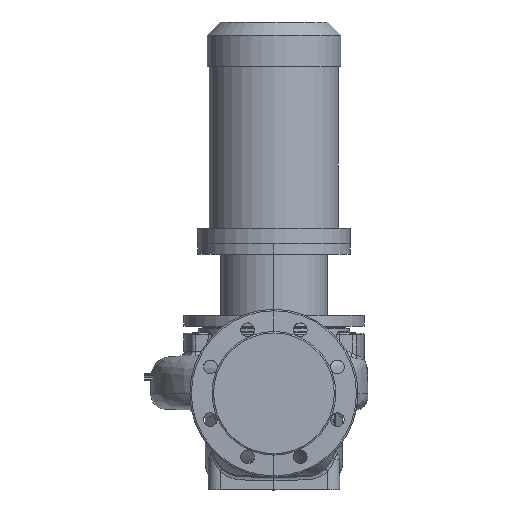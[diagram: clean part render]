
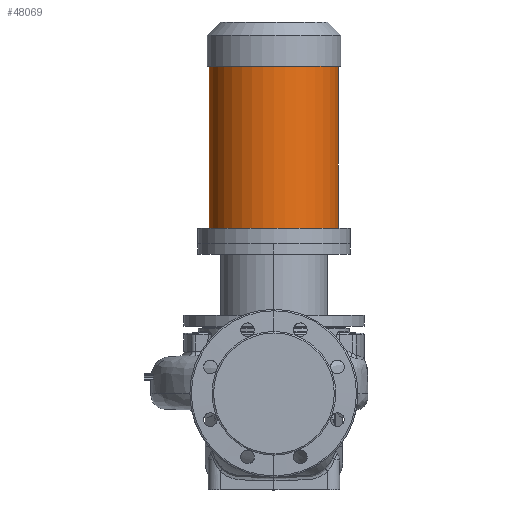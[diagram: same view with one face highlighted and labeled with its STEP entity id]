
A CAD part, top view. The second image highlights one B-rep face of the part: STEP entity #48069.
In plain terms, the highlighted cylindrical face has radius 84.5 mm (diameter 169 mm), a partial arc.
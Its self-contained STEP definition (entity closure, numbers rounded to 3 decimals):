
#1621 = CARTESIAN_POINT ( 'NONE',  ( 84.5, 216.3, 0. ) ) ;
#2119 = FACE_OUTER_BOUND ( 'NONE', #19208, .T. ) ;
#5796 = CARTESIAN_POINT ( 'NONE',  ( 0., 196.3, 0. ) ) ;
#5826 = EDGE_CURVE ( 'NONE', #29165, #52747, #6450, .T. ) ;
#6118 = DIRECTION ( 'NONE',  ( -1., 0., 0. ) ) ;
#6450 = CIRCLE ( 'NONE', #10351, 84.5 ) ;
#7078 = DIRECTION ( 'NONE',  ( -1., 0., 0. ) ) ;
#7851 = DIRECTION ( 'NONE',  ( 0., -1., 0. ) ) ;
#7947 = VERTEX_POINT ( 'NONE', #35226 ) ;
#8259 = EDGE_CURVE ( 'NONE', #7947, #52747, #50573, .T. ) ;
#10278 = AXIS2_PLACEMENT_3D ( 'NONE', #32903, #10390, #6118 ) ;
#10351 = AXIS2_PLACEMENT_3D ( 'NONE', #20650, #7851, #7078 ) ;
#10390 = DIRECTION ( 'NONE',  ( 0., -1., 0. ) ) ;
#12752 = ORIENTED_EDGE ( 'NONE', *, *, #5826, .F. ) ;
#13183 = CYLINDRICAL_SURFACE ( 'NONE', #32699, 84.5 ) ;
#15974 = DIRECTION ( 'NONE',  ( 0., -1., 0. ) ) ;
#16192 = LINE ( 'NONE', #24227, #44644 ) ;
#19208 = EDGE_LOOP ( 'NONE', ( #46994, #47472, #30783, #12752 ) ) ;
#20650 = CARTESIAN_POINT ( 'NONE',  ( 0., 216.3, 0. ) ) ;
#23653 = EDGE_CURVE ( 'NONE', #25208, #29165, #16192, .T. ) ;
#24227 = CARTESIAN_POINT ( 'NONE',  ( 84.5, 196.3, 0. ) ) ;
#25208 = VERTEX_POINT ( 'NONE', #40629 ) ;
#29165 = VERTEX_POINT ( 'NONE', #1621 ) ;
#29770 = VECTOR ( 'NONE', #15974, 1000. ) ;
#30783 = ORIENTED_EDGE ( 'NONE', *, *, #8259, .T. ) ;
#32699 = AXIS2_PLACEMENT_3D ( 'NONE', #5796, #49826, #37818 ) ;
#32903 = CARTESIAN_POINT ( 'NONE',  ( 0., 428.3, 0. ) ) ;
#33450 = CARTESIAN_POINT ( 'NONE',  ( -84.5, 196.3, 0. ) ) ;
#35226 = CARTESIAN_POINT ( 'NONE',  ( -84.5, 428.3, 0. ) ) ;
#37818 = DIRECTION ( 'NONE',  ( -1., 0., 0. ) ) ;
#40629 = CARTESIAN_POINT ( 'NONE',  ( 84.5, 428.3, 0. ) ) ;
#44644 = VECTOR ( 'NONE', #55265, 1000. ) ;
#46923 = CIRCLE ( 'NONE', #10278, 84.5 ) ;
#46994 = ORIENTED_EDGE ( 'NONE', *, *, #23653, .F. ) ;
#47472 = ORIENTED_EDGE ( 'NONE', *, *, #53987, .T. ) ;
#47956 = CARTESIAN_POINT ( 'NONE',  ( -84.5, 216.3, 0. ) ) ;
#48069 = ADVANCED_FACE ( 'NONE', ( #2119 ), #13183, .T. ) ;
#49826 = DIRECTION ( 'NONE',  ( 0., -1., 0. ) ) ;
#50573 = LINE ( 'NONE', #33450, #29770 ) ;
#52747 = VERTEX_POINT ( 'NONE', #47956 ) ;
#53987 = EDGE_CURVE ( 'NONE', #25208, #7947, #46923, .T. ) ;
#55265 = DIRECTION ( 'NONE',  ( 0., -1., 0. ) ) ;
